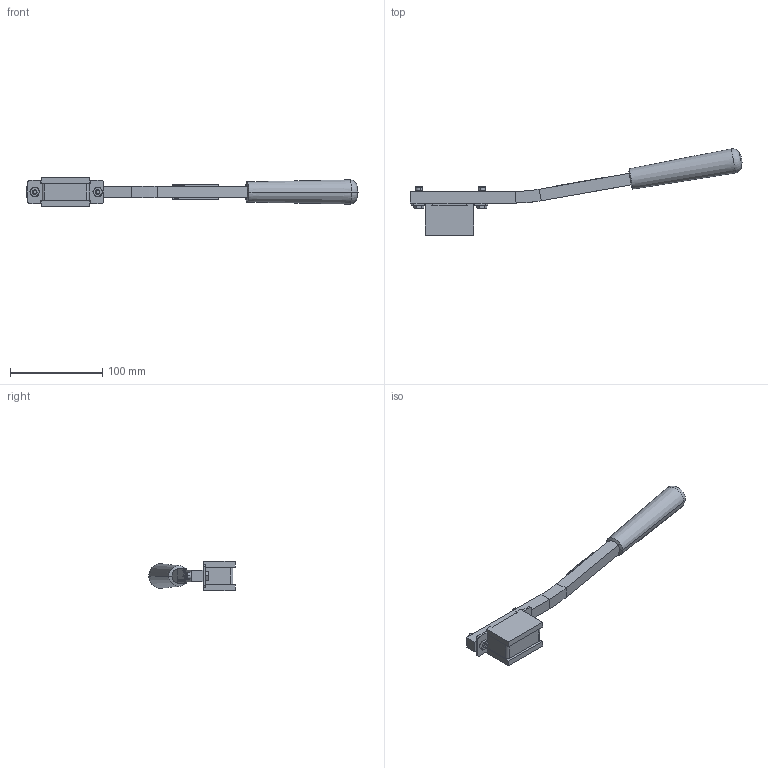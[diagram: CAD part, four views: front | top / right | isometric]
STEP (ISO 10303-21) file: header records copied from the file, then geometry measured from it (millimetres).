
FILE_DESCRIPTION (( 'STEP AP203' ), '1' );
FILE_NAME ('IMPL3060.STEP', '2018-08-14T15:52:07', ( '' ), ( '' ), 'SwSTEP 2.0', 'SolidWorks 2015', '' );
FILE_SCHEMA (( 'CONFIG_CONTROL_DESIGN' ));
Length unit declared in the file: inch
Products named in the file (1): IMPL3060
Bounding box: 359.8 x 93.78 x 31.75 mm (x, y, z)
Volume: 139606.2 mm3; surface area: 63263.2 mm2
Topology: 13 solids, 13 shells, 956 faces, 2281 edges, 1415 vertices
Faces by surface type: plane 447, cone 186, bspline 161, cylinder 144, torus 14, sphere 4
Entity records: 37208 total; most frequent: CARTESIAN_POINT 15902, ORIENTED_EDGE 4562, DIRECTION 3945, EDGE_CURVE 2281, VECTOR 1517, LINE 1517, VERTEX_POINT 1415, AXIS2_PLACEMENT_3D 1214
